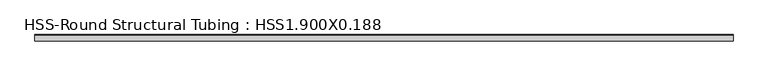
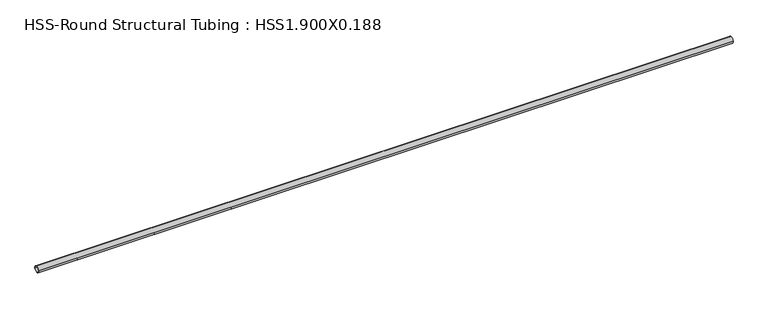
"""IFC4 building model written with IfcOpenShell, lengths in millimetres: member geometry, HSS-Round Structural Tubing : HSS1.900X0.188."""

from ifc_helpers import new_model, si_unit, point, frame, origin, origin_2d, place, context, project, spatial, circle_curve, trimmed, segment, composite_curve, outline, extrude, source, transform, mapped, element, save


def hss_round_structural_tubing_hss1_900x0_188_139ededb(model_context):
    return source(origin(), model_context, "Body", "SweptSolid", [
        extrude(outline(composite_curve([segment(trimmed(circle_curve(origin_2d(), 24.13), [point((-24.13, 0.0))], [point((24.13, 0.0))], False, "CARTESIAN"), True, "CONTINUOUS"), segment(trimmed(circle_curve(origin_2d(), 24.13), [point((24.13, 0.0))], [point((-24.13, 0.0))], False, "CARTESIAN"), True, "CONTINUOUS")], self_intersect=False), holes=[composite_curve([segment(trimmed(circle_curve(origin_2d(), 19.7104), [point((19.7104, 0.0))], [point((-19.7104, 0.0))], True, "CARTESIAN"), True, "CONTINUOUS"), segment(trimmed(circle_curve(origin_2d(), 19.7104), [point((-19.7104, 0.0))], [point((19.7104, 0.0))], True, "CARTESIAN"), True, "CONTINUOUS")], self_intersect=False)]), frame((-2747.8254285, 0.0, 0.0), z_axis=(1.0, 0.0, 0.0), x_axis=(0.0, 1.0, 0.0)), (0.0, 0.0, 1.0), 5329.4064562),
    ])


if __name__ == "__main__":
    model = new_model("IFC4")
    model_context = context("Model", 3, world=origin())
    ifc_project = project(units=[si_unit("LENGTHUNIT", "METRE", prefix="MILLI")], contexts=[model_context])
    site = spatial("IfcSite", under=ifc_project)
    building = spatial("IfcBuilding", under=site)
    placement = place(None, origin())
    hss_round_structural_tubing_hss1_900x0_188_shape = hss_round_structural_tubing_hss1_900x0_188_139ededb(model_context)
    element("IfcMember", 1, ObjectType="HSS-Round Structural Tubing : HSS1.900X0.188", at=placement, inside=building, context=model_context, shape_type="MappedRepresentation", body=[
        mapped(hss_round_structural_tubing_hss1_900x0_188_shape, transform((0.0, 0.0, 0.0), x_axis=(1.0, 0.0, 0.0), y_axis=(0.0, 1.0, 0.0), z_axis=(0.0, 0.0, 1.0))),
    ])
    save(model, "model.ifc")
